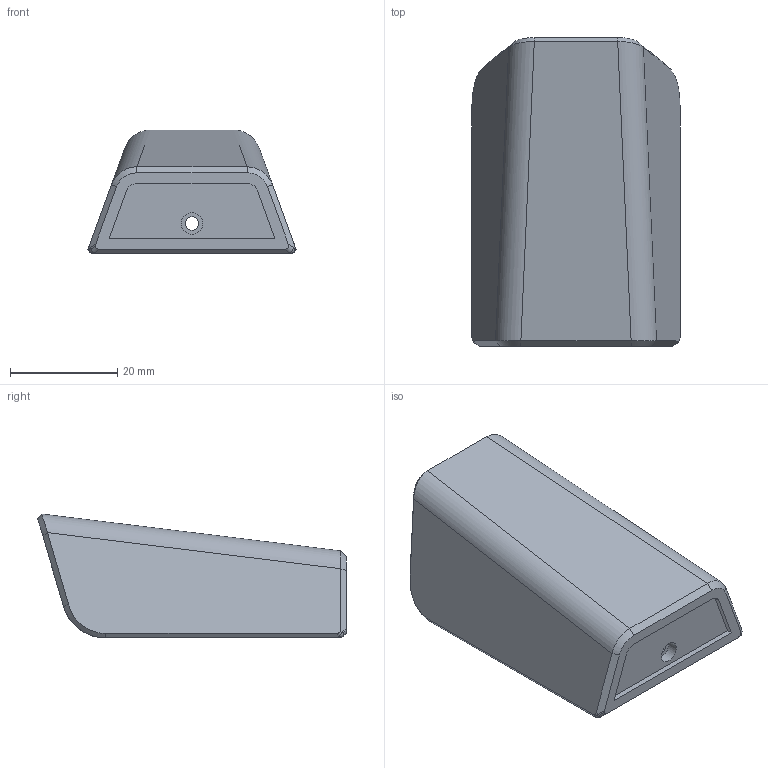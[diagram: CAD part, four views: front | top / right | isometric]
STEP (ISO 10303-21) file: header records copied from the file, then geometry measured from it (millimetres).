
FILE_DESCRIPTION(('HOOPS Exchange Step'),'2;1');
FILE_NAME('/private/var/mobile/Containers/Data/Application/CF5FE49D-83C9-4FF2-81F6-0AAB70978F0F/tmp/export/temp_export','2026-08-29T23:07:41+19:00',('mobile'),('Shapr3D Limited'),'HOOPS Exchange 2026.3','Shapr3D','Authorized');
FILE_SCHEMA( ('AP242_MANAGED_MODEL_BASED_3D_ENGINEERING_MIM_LF {1 0 10303 442 1 1 4}') );
Length unit declared in the file: millimetre
Products named in the file (6): Armor; Main; Display; Display armor.step; root
Assembly tree (5 placements, depth 6):
  root
    Display armor.step
      Display
        Display
          Main
            Armor
Bounding box: 38.79 x 57.52 x 23.11 mm (x, y, z)
Volume: 19058.4 mm3; surface area: 8620.1 mm2
Topology: 1 solids, 1 shells, 66 faces, 170 edges, 106 vertices
Faces by surface type: plane 41, cylinder 15, bspline 8, sphere 2
Full cylindrical faces by diameter (mm): 2.5 x1, 4 x1
Entity records: 2638 total; most frequent: CARTESIAN_POINT 964, ORIENTED_EDGE 336, DIRECTION 288, EDGE_CURVE 168, VECTOR 122, LINE 122, VERTEX_POINT 106, AXIS2_PLACEMENT_3D 83
